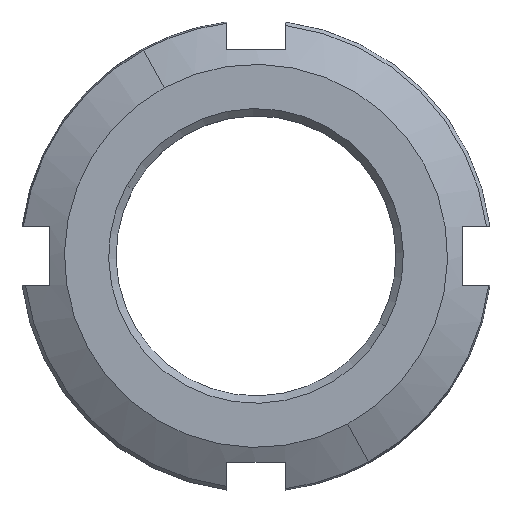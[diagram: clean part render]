
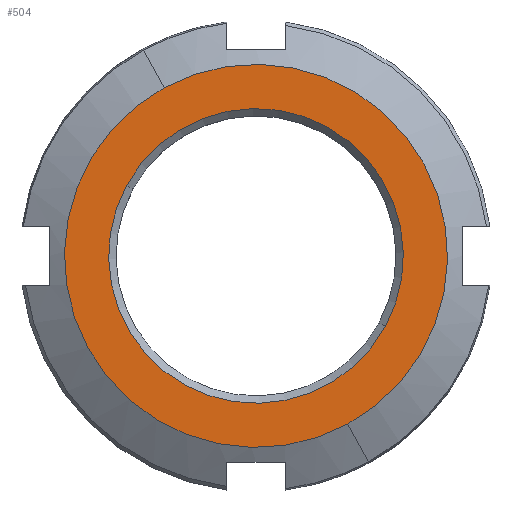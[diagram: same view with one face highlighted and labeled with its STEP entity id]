
A CAD part, top view. The second image highlights one B-rep face of the part: STEP entity #504.
In plain terms, the highlighted planar face has unit normal (0, 0, 1).
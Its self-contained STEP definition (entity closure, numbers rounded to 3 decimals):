
#438=CARTESIAN_POINT('Vertex',(-8.776,4.794,6.)) ;
#441=CARTESIAN_POINT('Axis2P3D Location',(0.,0.,6.)) ;
#445=CARTESIAN_POINT('Vertex',(8.776,-4.794,6.)) ;
#465=CARTESIAN_POINT('Axis2P3D Location',(0.,0.,6.)) ;
#477=CARTESIAN_POINT('Axis2P3D Location',(0.,0.,6.)) ;
#482=CARTESIAN_POINT('Axis2P3D Location',(0.,0.,6.)) ;
#486=CARTESIAN_POINT('Vertex',(6.233,-11.409,6.)) ;
#488=CARTESIAN_POINT('Vertex',(-6.233,11.409,6.)) ;
#491=CARTESIAN_POINT('Axis2P3D Location',(0.,0.,6.)) ;
#442=DIRECTION('Axis2P3D Direction',(0.,0.,1.)) ;
#466=DIRECTION('Axis2P3D Direction',(0.,0.,1.)) ;
#478=DIRECTION('Axis2P3D Direction',(0.,0.,1.)) ;
#479=DIRECTION('Axis2P3D XDirection',(1.,0.,0.)) ;
#483=DIRECTION('Axis2P3D Direction',(0.,0.,1.)) ;
#492=DIRECTION('Axis2P3D Direction',(0.,0.,1.)) ;
#443=AXIS2_PLACEMENT_3D('Circle Axis2P3D',#441,#442,$) ;
#467=AXIS2_PLACEMENT_3D('Circle Axis2P3D',#465,#466,$) ;
#480=AXIS2_PLACEMENT_3D('Plane Axis2P3D',#477,#478,#479) ;
#484=AXIS2_PLACEMENT_3D('Circle Axis2P3D',#482,#483,$) ;
#493=AXIS2_PLACEMENT_3D('Circle Axis2P3D',#491,#492,$) ;
#497=ORIENTED_EDGE('',*,*,#490,.T.) ;
#498=ORIENTED_EDGE('',*,*,#495,.T.) ;
#501=ORIENTED_EDGE('',*,*,#469,.F.) ;
#502=ORIENTED_EDGE('',*,*,#447,.F.) ;
#503=FACE_BOUND('',#500,.T.) ;
#504=ADVANCED_FACE('PartBody',(#499,#503),#481,.T.) ;
#444=CIRCLE('generated circle',#443,10.) ;
#468=CIRCLE('generated circle',#467,10.) ;
#485=CIRCLE('generated circle',#484,13.) ;
#494=CIRCLE('generated circle',#493,13.) ;
#447=EDGE_CURVE('',#439,#446,#444,.T.) ;
#469=EDGE_CURVE('',#446,#439,#468,.T.) ;
#490=EDGE_CURVE('',#487,#489,#485,.T.) ;
#495=EDGE_CURVE('',#489,#487,#494,.T.) ;
#496=EDGE_LOOP('',(#497,#498)) ;
#500=EDGE_LOOP('',(#501,#502)) ;
#499=FACE_OUTER_BOUND('',#496,.T.) ;
#481=PLANE('Plane',#480) ;
#439=VERTEX_POINT('',#438) ;
#446=VERTEX_POINT('',#445) ;
#487=VERTEX_POINT('',#486) ;
#489=VERTEX_POINT('',#488) ;
